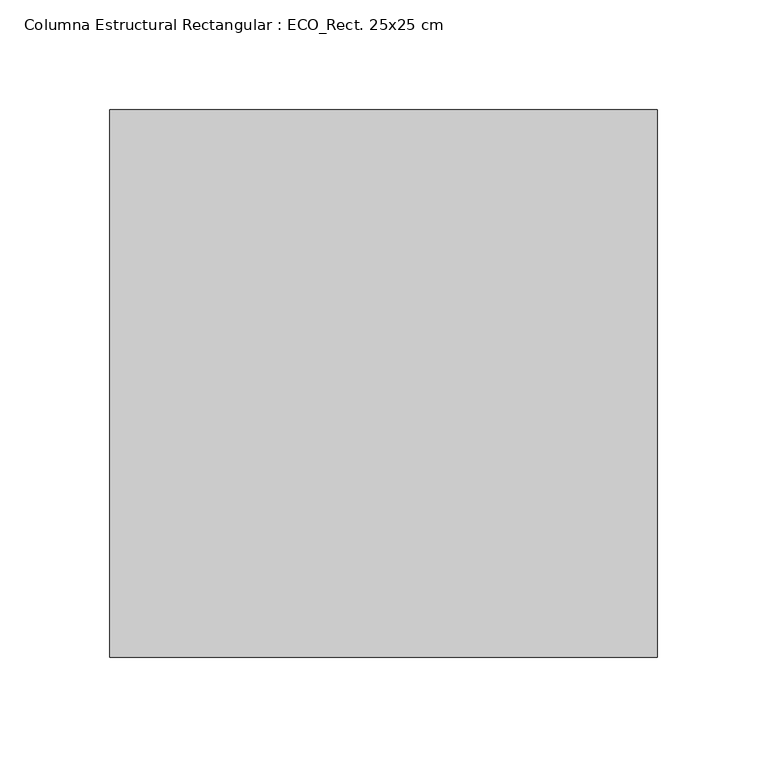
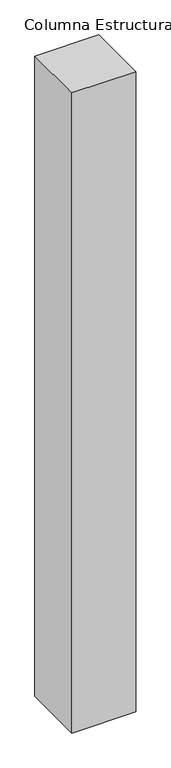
"""IFC4 building model written with IfcOpenShell, lengths in millimetres: column geometry, Columna Estructural Rectangular : ECO_Rect. 25x25 cm."""

from ifc_helpers import new_model, si_unit, frame, origin, place, context, project, spatial, polyline, outline, extrude, source, transform, mapped, element, save


def columna_estructural_rectangular_eco_rect_25x25_cm_03bc15f3(model_context):
    return source(origin(), model_context, "Body", "SweptSolid", [
        extrude(outline(polyline([(125.0, 125.0), (125.0, -125.0), (-125.0, -125.0), (-125.0, 125.0), (125.0, 125.0)])), frame((0.0, 0.0, 13350.0), z_axis=(0.0, 0.0, 1.0), x_axis=(1.0, 0.0, 0.0)), (0.0, 0.0, 1.0), 2650.0),
    ])


if __name__ == "__main__":
    model = new_model("IFC4")
    model_context = context("Model", 3, world=origin())
    ifc_project = project(units=[si_unit("LENGTHUNIT", "METRE", prefix="MILLI")], contexts=[model_context])
    site = spatial("IfcSite", under=ifc_project)
    building = spatial("IfcBuilding", under=site)
    placement = place(None, origin())
    columna_estructural_rectangular_eco_rect_25x25_cm_shape = columna_estructural_rectangular_eco_rect_25x25_cm_03bc15f3(model_context)
    element("IfcColumn", 1, ObjectType="Columna Estructural Rectangular : ECO_Rect. 25x25 cm", at=placement, inside=building, context=model_context, shape_type="MappedRepresentation", body=[
        mapped(columna_estructural_rectangular_eco_rect_25x25_cm_shape, transform((0.0, 0.0, 0.0), x_axis=(1.0, 0.0, 0.0), y_axis=(0.0, 1.0, 0.0), z_axis=(0.0, 0.0, 1.0))),
    ])
    save(model, "model.ifc")
